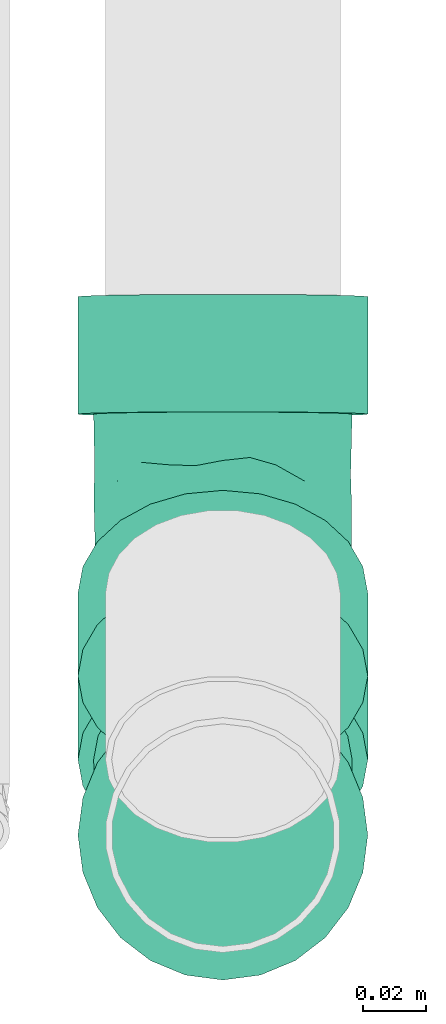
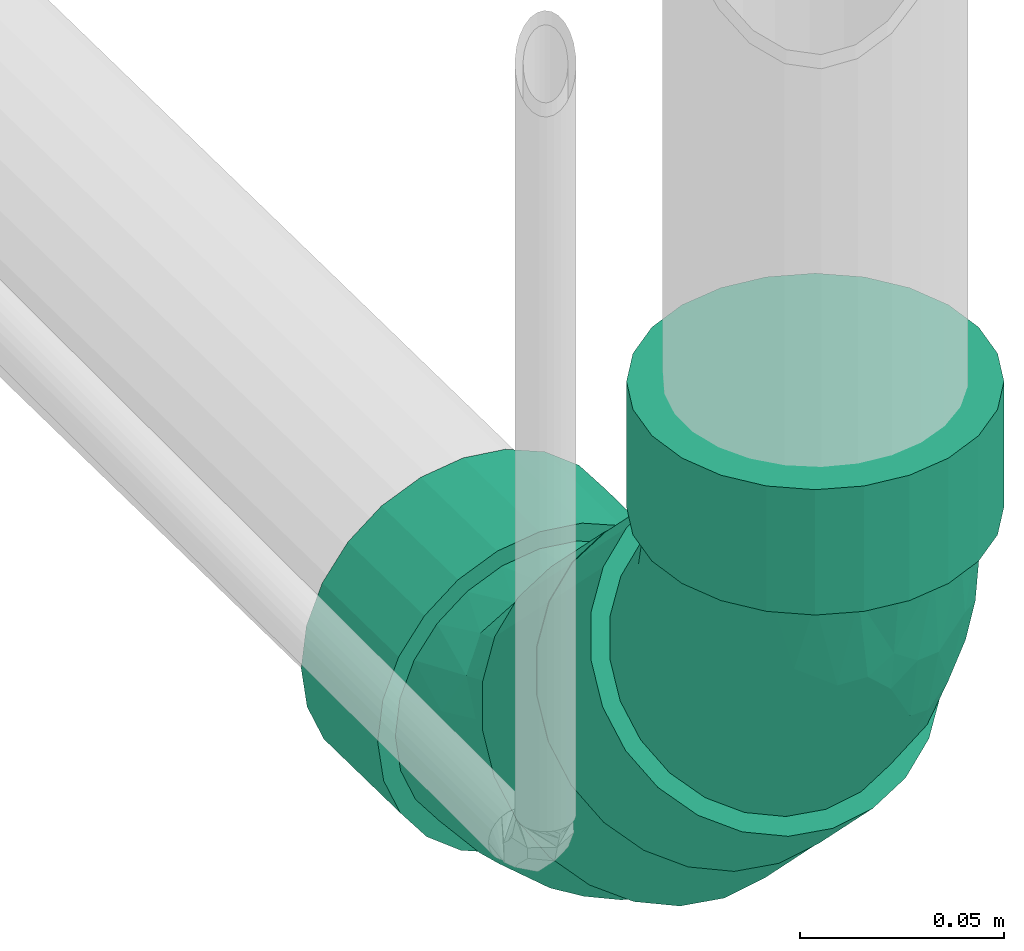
# One storey, part 11 of 18: 2 flow fittings.
"""IFC2X3 building model written with IfcOpenShell, lengths in millimetres."""

from ifc_helpers import new_model, entity, si_unit, converted_unit, derived_unit, direction, frame, origin_with_axes, place, context, subcontext, project, spatial, open_shell, surface_model, source, transform, mapped, type_object, element, save


model = new_model("IFC2X3")

# Units and contexts
model_context = context("Model", 3, precision=0.01, world=frame((0.0, 4.29681676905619e-09, 0.0)), true_north=direction((4.01073788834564e-13, 1.0)))
plan_context = context("Plan", 3, precision=0.01, world=frame((0.0, 4.29681676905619e-09, 0.0)), true_north=direction((4.01073788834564e-13, 1.0)))
body_context = subcontext(model_context, "Body", "Model", "MODEL_VIEW")
ifc_project = project(units=[converted_unit("PLANEANGLEUNIT", "DEGREE", entity("IfcPositiveLengthMeasure", 0.0174532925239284), si_unit("PLANEANGLEUNIT", "RADIAN"), dimensions=[0, 0, 0, 0, 0, 0, 0]), si_unit("AREAUNIT", "SQUARE_METRE"), si_unit("LENGTHUNIT", "METRE", prefix="MILLI"), si_unit("MASSUNIT", "GRAM", prefix="KILO"), si_unit("POWERUNIT", "WATT"), si_unit("PRESSUREUNIT", "PASCAL", prefix="KILO"), si_unit("FORCEUNIT", "NEWTON", prefix="KILO"), si_unit("ELECTRICVOLTAGEUNIT", "VOLT"), si_unit("ELECTRICCURRENTUNIT", "AMPERE"), si_unit("THERMODYNAMICTEMPERATUREUNIT", "DEGREE_CELSIUS"), si_unit("TIMEUNIT", "SECOND"), si_unit("VOLUMEUNIT", "CUBIC_METRE"), derived_unit("LINEARVELOCITYUNIT", [(si_unit("LENGTHUNIT", "METRE"), 1), (si_unit("TIMEUNIT", "SECOND"), -1)]), derived_unit("VOLUMETRICFLOWRATEUNIT", [(si_unit("VOLUMEUNIT", "CUBIC_METRE"), 1), (si_unit("TIMEUNIT", "SECOND"), -1)]), derived_unit("THERMALTRANSMITTANCEUNIT", [(si_unit("POWERUNIT", "WATT"), 1), (si_unit("THERMODYNAMICTEMPERATUREUNIT", "KELVIN"), -1), (si_unit("AREAUNIT", "SQUARE_METRE"), -1)]), derived_unit("SOUNDPRESSUREUNIT", [(si_unit("PRESSUREUNIT", "PASCAL"), 1)])], contexts=[model_context, plan_context])

# Site, building, storey
site_placement = place(None, frame((0.0, -4.29681676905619e-09, 0.0), z_axis=(0.0, 0.0, 1.0), x_axis=(1.0, 0.0, 0.0)))
site = spatial("IfcSite", under=ifc_project, at=site_placement, Name="ENGM", CompositionType="ELEMENT")
building_placement = place(site_placement, frame((0.0, 4.29681676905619e-09, 0.0), z_axis=(0.0, 0.0, 1.0), x_axis=(1.0, 0.0, 0.0)))
building = spatial("IfcBuilding", under=site, at=building_placement, Name="TI", CompositionType="ELEMENT")
storey_placement = place(building_placement, frame((0.0, 0.0, 204000.0), z_axis=(0.0, 0.0, 1.0), x_axis=(1.0, 0.0, 0.0)))
storey = spatial("IfcBuildingStorey", under=building, at=storey_placement, Name="Nivå D", CompositionType="ELEMENT", Elevation=204000.0)

# Flow fittings
pipe_fitting_type = type_object("IfcPipeFittingType", Name="magi_sewer_bend_001", PredefinedType="BEND")
shared_shape_1 = source(origin_with_axes(), body_context, "Body", "SurfaceModel", [
    surface_model("IfcShellBasedSurfaceModel", [(-70.97652, -44.67407, -11.97038), (-70.97652, -11.97038, -44.67407), (-70.97652, -23.125, -40.05367), (-70.97652, -32.70369, -32.70369), (-70.97652, 0.0, -46.25), (-70.97652, -40.05367, -23.125), (-70.97652, -46.25, 0.0), (-70.97652, 11.97038, -44.67407), (-70.97652, 32.70369, -32.70369), (-70.97652, 23.125, -40.05367), (-70.97652, 44.67407, -11.97038), (-70.97652, 40.05367, -23.125), (-70.97652, -32.70369, 32.70369), (-70.97652, -44.67407, 11.97038), (-70.97652, -40.05367, 23.125), (-70.97652, 40.05367, 23.125), (-70.97652, -23.125, 40.05367), (-70.97652, -11.97038, 44.67407), (-70.97652, 0.0, 46.25), (-70.97652, 11.97038, 44.67407), (-70.97652, 44.67407, 11.97038), (-70.97652, 46.25, 0.0), (-70.97652, 23.125, 40.05367), (-70.97652, 32.70369, 32.70369), (-33.47652, 0.0, 46.25), (-33.47652, -11.97038, 44.67407), (-33.47652, -23.125, 40.05367), (-33.47652, -32.70369, 32.70369), (-33.47652, -40.05367, 23.125), (-33.47652, -44.67407, 11.97038), (-33.47652, 40.05367, 23.125), (-33.47652, -44.67407, -11.97038), (-33.47652, 23.125, 40.05367), (-33.47652, 32.70369, 32.70369), (-33.47652, 11.97038, 44.67407), (-33.47652, 44.67407, 11.97038), (-33.47652, 44.67407, -11.97038), (-33.47652, 46.25, 0.0), (-33.47652, -32.70369, -32.70369), (-33.47652, -40.05367, -23.125), (-33.47652, -23.125, -40.05367), (-33.47652, -11.97038, -44.67407), (-33.47652, 11.97038, -44.67407), (-33.47652, 32.70369, -32.70369), (-33.47652, 40.05367, -23.125), (-33.47652, 23.125, -40.05367), (-33.47652, 0.0, -46.25), (-33.47652, -46.25, 0.0), (42.56659, 58.04344, 44.67407), (19.77807, 81.5001, 11.97038), (22.99765, 78.18613, 23.125), (34.79385, 66.04407, 40.05367), (28.11925, 72.91437, 32.70369), (19.77807, 81.5001, -11.97038), (67.02168, 32.87135, -40.05367), (28.11925, 72.91437, -32.70369), (22.99765, 78.18613, -23.125), (18.67994, 82.63043, 0.0), (42.56659, 58.04344, -44.67407), (34.79385, 66.04407, -40.05367), (67.02168, 32.87135, 40.05367), (50.90777, 49.45771, 46.25), (73.69628, 26.00105, 32.70369), (83.1356, 16.28499, 0.0), (78.81789, 20.72929, 23.125), (82.03746, 17.41532, 11.97038), (59.24894, 40.87198, -44.67407), (50.90777, 49.45771, -46.25), (78.81789, 20.72929, -23.125), (73.69628, 26.00105, -32.70369), (82.03746, 17.41532, -11.97038), (59.24894, 40.87198, 44.67407), (56.2388, -9.84568, 0.0), (55.14066, -8.71535, 11.97038), (51.92109, -5.40138, 23.125), (46.79948, -0.12962, 32.70369), (40.12488, 6.74068, 40.05367), (32.35214, 14.74131, 44.67407), (40.12488, 6.74068, -40.05367), (15.66979, 31.91277, 44.67407), (51.92109, -5.40138, -23.125), (46.79948, -0.12962, -32.70369), (55.14066, -8.71535, -11.97038), (32.35214, 14.74131, -44.67407), (15.66979, 31.91277, -44.67407), (24.01097, 23.32704, -46.25), (-7.11873, 55.36943, -11.97038), (-3.89915, 52.05546, 23.125), (7.89705, 39.9134, 40.05367), (-7.11873, 55.36943, 11.97038), (1.22245, 46.7837, 32.70369), (1.22245, 46.7837, -32.70369), (7.89705, 39.9134, -40.05367), (-3.89915, 52.05546, -23.125), (-8.21687, 56.49976, 0.0), (24.01097, 23.32704, 46.25), (-33.47652, 0.0, -41.25), (-33.47652, -35.72355, 20.625), (-33.47652, 10.67629, -39.84444), (-33.47652, 20.625, -35.72355), (-33.47652, 35.72355, -20.625), (-33.47652, 29.16816, -29.16816), (-33.47652, -41.25, 0.0), (-33.47652, -29.16816, -29.16816), (-33.47652, -20.625, -35.72355), (-33.47652, -10.67629, -39.84444), (-33.47652, -39.84444, -10.67629), (-33.47652, -35.72355, -20.625), (-33.47652, 39.84444, -10.67629), (-33.47652, 35.72355, 20.625), (-33.47652, 39.84444, 10.67629), (-33.47652, 41.25, 0.0), (-33.47652, -10.67629, 39.84444), (-33.47652, 10.67629, 39.84444), (-33.47652, 20.625, 35.72355), (-33.47652, 29.16816, 29.16816), (-33.47652, 0.0, 41.25), (-33.47652, -29.16816, 29.16816), (-33.47652, -39.84444, 10.67629), (-33.47652, -20.625, 35.72355), (16.57154, 30.98458, -39.84444), (52.75471, -6.25944, 0.0), (24.01097, 23.32704, -41.25), (3.68607, 44.24784, -29.16816), (9.6391, 38.12028, -35.72355), (-0.88184, 48.94968, -20.625), (-3.75336, 51.90538, -10.67629), (38.38284, 8.5338, -35.72355), (44.33586, 2.40624, -29.16816), (31.45039, 15.66949, -39.84444), (48.90377, -2.29561, -20.625), (51.77529, -5.25131, -10.67629), (-4.73278, 52.91352, 0.0), (-3.75336, 51.90538, 10.67629), (-0.88184, 48.94968, 20.625), (3.68607, 44.24784, 29.16816), (9.6391, 38.12028, 35.72355), (16.57154, 30.98458, 39.84444), (31.45039, 15.66949, 39.84444), (24.01097, 23.32704, 41.25), (48.90377, -2.29561, 20.625), (51.77529, -5.25131, 10.67629), (44.33586, 2.40624, 29.16816), (38.38284, 8.5338, 35.72355), (-12.67921, -31.54394, 24.1733), (-7.0331, -35.74545, 14.36976), (10.40191, -25.63462, 23.06647), (-13.07778, -38.61441, 0.0), (-2.02365, -37.18617, 0.0), (-8.38428, -38.05185, 7.09314), (-8.70646, -23.34574, 31.8565), (22.51242, -10.67787, 31.8565), (31.07452, -13.78973, 24.1733), (-16.04768, -15.1595, 37.71721), (4.23261, -10.43091, 37.21653), (7.31276, 19.1585, 40.62361), (-11.81224, -3.98526, 40.70923), (-3.78212, 9.32072, 41.09906), (-20.29594, 5.69547, 40.99577), (-11.43115, 28.17108, 33.64295), (-17.52446, 34.59974, 26.01363), (22.07358, 0.30919, 37.71721), (-15.26452, 17.16255, 38.55255), (15.48672, -27.45323, 16.3707), (12.67014, -31.22446, 9.11439), (-16.60419, 40.91961, 16.90521), (32.52882, -21.4503, 7.09314), (36.28722, -18.58327, 0.0), (-16.32107, 43.9817, 8.64456), (29.95255, -20.73756, 14.36976), (11.2493, 5.37256, 40.70923), (1.46806, 24.57827, 38.48293), (-17.96652, 44.27694, 0.0), (6.82264, -16.81381, 33.05342), (12.6699, -31.22388, 0.0), (27.36345, -25.26159, 0.0), (-11.81224, -3.98526, -40.70923), (-8.38428, -38.05185, -7.09314), (12.67014, -31.22446, -9.11439), (11.2493, 5.37256, -40.70923), (-18.59505, 8.64573, -40.62361), (-11.54034, 37.02795, -26.01363), (22.51242, -10.67787, -31.8565), (-16.6042, 40.91961, -16.90521), (29.95255, -20.73756, -14.36976), (-18.94098, 42.9186, -8.64456), (-1.01073, 22.9464, -38.55256), (-18.17954, 16.60575, -38.48293), (-7.0331, -35.74545, -14.36976), (-11.43115, 28.17108, -33.64295), (-12.67921, -31.54394, -24.1733), (10.40191, -25.63462, -23.06647), (8.02208, -30.4822, -16.3707), (-8.70646, -23.34574, -31.8565), (6.82264, -16.81381, -33.05342), (-16.04768, -15.1595, -37.71721), (22.07358, 0.30919, -37.71721), (4.23261, -10.43091, -37.21653), (32.52882, -21.4503, -7.09314), (10.58852, 18.22764, -40.99577), (31.07452, -13.78973, -24.1733), (-3.78212, 9.32072, -41.09906)], [open_shell([[[0, 1, 2]], [[0, 2, 3]], [[1, 0, 4]], [[0, 3, 5]], [[4, 0, 6]], [[7, 8, 9]], [[8, 7, 4]], [[8, 10, 11]], [[10, 8, 4]], [[4, 6, 10]], [[6, 12, 10]], [[13, 14, 12]], [[10, 12, 15]], [[16, 17, 18]], [[16, 18, 12]], [[19, 12, 18]], [[10, 20, 21]], [[15, 20, 10]], [[15, 22, 23]], [[22, 15, 19]], [[12, 19, 15]], [[6, 13, 12]], [[24, 25, 26]], [[24, 26, 27]], [[27, 28, 29]], [[24, 27, 30]], [[27, 31, 30]], [[32, 30, 33]], [[30, 32, 34]], [[35, 36, 37]], [[30, 34, 24]], [[35, 30, 36]], [[27, 29, 31]], [[36, 30, 31]], [[38, 31, 39]], [[40, 41, 31]], [[40, 31, 38]], [[42, 31, 41]], [[36, 43, 44]], [[36, 31, 43]], [[43, 42, 45]], [[31, 42, 43]], [[41, 46, 42]], [[31, 29, 47]], [[36, 10, 37]], [[44, 11, 36]], [[9, 43, 45]], [[44, 43, 8]], [[7, 45, 42]], [[36, 11, 10]], [[10, 21, 37]], [[7, 9, 45]], [[8, 43, 9]], [[8, 11, 44]], [[4, 7, 42]], [[42, 46, 4]], [[46, 41, 1]], [[5, 39, 31]], [[39, 3, 38]], [[0, 31, 47]], [[1, 40, 2]], [[40, 1, 41]], [[40, 38, 2]], [[38, 3, 2]], [[39, 5, 3]], [[0, 5, 31]], [[47, 6, 0]], [[46, 1, 4]], [[29, 13, 47]], [[28, 14, 29]], [[16, 27, 26]], [[28, 27, 12]], [[17, 26, 25]], [[29, 14, 13]], [[13, 6, 47]], [[17, 16, 26]], [[12, 27, 16]], [[12, 14, 28]], [[18, 17, 25]], [[25, 24, 18]], [[33, 22, 32]], [[35, 15, 30]], [[33, 30, 23]], [[20, 35, 37]], [[32, 19, 34]], [[32, 22, 19]], [[19, 18, 34]], [[33, 23, 22]], [[30, 15, 23]], [[20, 15, 35]], [[37, 21, 20]], [[34, 18, 24]], [[48, 49, 50]], [[51, 50, 52]], [[49, 48, 53]], [[48, 50, 51]], [[54, 53, 48]], [[53, 55, 56]], [[53, 57, 49]], [[55, 58, 59]], [[58, 55, 53]], [[53, 54, 58]], [[60, 48, 61]], [[60, 62, 48]], [[62, 63, 48]], [[64, 65, 63]], [[64, 63, 62]], [[63, 54, 48]], [[58, 66, 67]], [[54, 66, 58]], [[54, 68, 69]], [[54, 63, 68]], [[70, 68, 63]], [[60, 61, 71]], [[72, 73, 74]], [[72, 74, 75]], [[75, 76, 77]], [[72, 75, 78]], [[75, 79, 78]], [[80, 78, 81]], [[78, 80, 82]], [[83, 84, 85]], [[78, 82, 72]], [[83, 78, 84]], [[75, 77, 79]], [[78, 79, 86]], [[87, 79, 88]], [[87, 89, 79]], [[87, 88, 90]], [[86, 79, 89]], [[84, 91, 92]], [[91, 84, 86]], [[91, 86, 93]], [[78, 86, 84]], [[89, 94, 86]], [[79, 77, 95]], [[84, 58, 85]], [[92, 59, 84]], [[56, 91, 93]], [[92, 91, 55]], [[53, 93, 86]], [[84, 59, 58]], [[58, 67, 85]], [[53, 56, 93]], [[55, 91, 56]], [[55, 59, 92]], [[57, 53, 86]], [[86, 94, 57]], [[94, 89, 49]], [[51, 88, 79]], [[88, 52, 90]], [[48, 79, 95]], [[49, 87, 50]], [[87, 49, 89]], [[87, 90, 50]], [[90, 52, 50]], [[88, 51, 52]], [[48, 51, 79]], [[95, 61, 48]], [[94, 49, 57]], [[77, 71, 95]], [[76, 60, 77]], [[64, 75, 74]], [[76, 75, 62]], [[65, 74, 73]], [[77, 60, 71]], [[71, 61, 95]], [[65, 64, 74]], [[62, 75, 64]], [[62, 60, 76]], [[63, 65, 73]], [[73, 72, 63]], [[81, 68, 80]], [[83, 54, 78]], [[81, 78, 69]], [[66, 83, 85]], [[80, 70, 82]], [[80, 68, 70]], [[70, 63, 82]], [[81, 69, 68]], [[78, 54, 69]], [[66, 54, 83]], [[85, 67, 66]], [[82, 63, 72]], [[96, 97, 98]], [[99, 98, 100]], [[100, 98, 97]], [[101, 99, 100]], [[97, 96, 102]], [[103, 102, 104]], [[96, 105, 104]], [[106, 102, 107]], [[103, 107, 102]], [[104, 102, 96]], [[108, 100, 97]], [[109, 110, 111]], [[109, 111, 112]], [[113, 114, 115]], [[109, 113, 115]], [[113, 109, 116]], [[97, 117, 111]], [[97, 102, 118]], [[119, 112, 117]], [[112, 111, 117]], [[116, 109, 112]], [[111, 108, 97]], [[120, 121, 122]], [[123, 120, 124]], [[123, 125, 126]], [[123, 126, 120]], [[121, 120, 126]], [[127, 121, 128]], [[127, 129, 122]], [[130, 121, 131]], [[121, 130, 128]], [[122, 121, 127]], [[126, 132, 121]], [[132, 133, 134]], [[132, 134, 135]], [[135, 136, 137]], [[138, 121, 135]], [[139, 135, 137]], [[140, 141, 121]], [[142, 140, 121]], [[142, 138, 143]], [[138, 142, 121]], [[135, 139, 138]], [[132, 135, 121]], [[144, 145, 146]], [[147, 148, 149]], [[119, 117, 150]], [[151, 152, 142]], [[153, 150, 154]], [[117, 144, 150]], [[137, 155, 139]], [[112, 119, 153]], [[156, 157, 158]], [[116, 112, 156]], [[115, 159, 160]], [[143, 138, 161]], [[158, 113, 116]], [[114, 162, 159]], [[118, 147, 149]], [[136, 135, 159]], [[163, 145, 164]], [[159, 115, 114]], [[144, 117, 97]], [[109, 160, 165]], [[110, 109, 165]], [[141, 166, 167]], [[168, 111, 110]], [[169, 163, 164]], [[145, 149, 164]], [[114, 113, 162]], [[139, 155, 170]], [[142, 143, 151]], [[134, 133, 165]], [[170, 138, 139]], [[146, 150, 144]], [[169, 140, 152]], [[171, 155, 137]], [[151, 143, 161]], [[145, 144, 97]], [[166, 141, 169]], [[151, 146, 152]], [[158, 162, 113]], [[142, 152, 140]], [[110, 165, 168]], [[97, 118, 145]], [[172, 168, 132]], [[150, 173, 154]], [[133, 168, 165]], [[154, 170, 156]], [[134, 165, 160]], [[154, 161, 170]], [[134, 160, 135]], [[157, 156, 170]], [[137, 136, 171]], [[171, 159, 162]], [[153, 156, 112]], [[109, 115, 160]], [[169, 141, 140]], [[152, 146, 163]], [[173, 146, 151]], [[135, 160, 159]], [[150, 153, 119]], [[156, 153, 154]], [[170, 161, 138]], [[151, 161, 154]], [[159, 171, 136]], [[157, 171, 162]], [[118, 102, 147]], [[164, 148, 174]], [[118, 149, 145]], [[148, 164, 149]], [[166, 164, 175]], [[167, 166, 175]], [[167, 121, 141]], [[164, 166, 169]], [[171, 157, 155]], [[155, 157, 170]], [[156, 158, 116]], [[162, 158, 157]], [[146, 173, 150]], [[151, 154, 173]], [[132, 168, 133]], [[168, 172, 111]], [[152, 163, 169]], [[145, 163, 146]], [[175, 164, 174]], [[105, 96, 176]], [[148, 177, 178]], [[122, 129, 179]], [[180, 96, 98]], [[100, 181, 101]], [[127, 128, 182]], [[183, 181, 100]], [[130, 131, 184]], [[108, 185, 183]], [[124, 120, 186]], [[106, 177, 147]], [[99, 187, 98]], [[177, 106, 188]], [[123, 189, 181]], [[190, 191, 192]], [[190, 188, 107]], [[103, 104, 193]], [[194, 191, 193]], [[106, 107, 188]], [[190, 103, 193]], [[195, 104, 105]], [[196, 179, 129]], [[126, 125, 183]], [[197, 195, 176]], [[111, 172, 185]], [[193, 191, 190]], [[132, 126, 185]], [[197, 176, 179]], [[123, 124, 189]], [[183, 100, 108]], [[125, 181, 183]], [[195, 193, 104]], [[186, 189, 124]], [[180, 176, 96]], [[189, 186, 187]], [[101, 189, 99]], [[131, 167, 198]], [[199, 120, 122]], [[196, 129, 127]], [[192, 184, 178]], [[182, 128, 200]], [[197, 196, 182]], [[200, 128, 130]], [[201, 199, 179]], [[191, 200, 184]], [[201, 179, 176]], [[198, 167, 175]], [[199, 186, 120]], [[187, 180, 98]], [[177, 188, 178]], [[103, 190, 107]], [[182, 194, 197]], [[184, 200, 130]], [[126, 183, 185]], [[191, 182, 200]], [[125, 123, 181]], [[101, 181, 189]], [[176, 195, 105]], [[193, 195, 197]], [[182, 196, 127]], [[179, 196, 197]], [[189, 187, 99]], [[201, 187, 186]], [[147, 177, 148]], [[147, 102, 106]], [[192, 178, 188]], [[198, 178, 184]], [[178, 175, 174]], [[131, 121, 167]], [[178, 198, 175]], [[131, 198, 184]], [[187, 201, 180]], [[180, 201, 176]], [[179, 199, 122]], [[186, 199, 201]], [[191, 194, 182]], [[193, 197, 194]], [[111, 185, 108]], [[185, 172, 132]], [[190, 192, 188]], [[184, 192, 191]], [[148, 178, 174]]])]),
])
flow_fitting_1_placement = place(storey_placement, frame((593020.37788, 570381.72917, 6286.20220999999), z_axis=(-1.0, 0.0, 0.0), x_axis=(0.0, -0.999861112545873, 0.0166660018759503)))
element("IfcFlowFitting", 1, at=flow_fitting_1_placement, inside=storey, type_object=pipe_fitting_type, Name="magi_sewer_bend_001", context=body_context, shape_type="MappedRepresentation", body=[
    mapped(shared_shape_1, transform((0.0, 0.0, 0.0), scale=1.0)),
])
shared_shape_2 = source(origin_with_axes(), body_context, "Body", "SurfaceModel", [
    surface_model("IfcShellBasedSurfaceModel", [(-71.6253, -44.67407, -11.97038), (-71.6253, -11.97038, -44.67407), (-71.6253, -23.125, -40.05367), (-71.6253, -32.70369, -32.70369), (-71.6253, 0.0, -46.25), (-71.6253, -40.05367, -23.125), (-71.6253, -46.25, 0.0), (-71.6253, 11.97038, -44.67407), (-71.6253, 32.70369, -32.70369), (-71.6253, 23.125, -40.05367), (-71.6253, 44.67407, -11.97038), (-71.6253, 40.05367, -23.125), (-71.6253, -32.70369, 32.70369), (-71.6253, -44.67407, 11.97038), (-71.6253, -40.05367, 23.125), (-71.6253, 40.05367, 23.125), (-71.6253, -23.125, 40.05367), (-71.6253, -11.97038, 44.67407), (-71.6253, 0.0, 46.25), (-71.6253, 11.97038, 44.67407), (-71.6253, 44.67407, 11.97038), (-71.6253, 46.25, 0.0), (-71.6253, 23.125, 40.05367), (-71.6253, 32.70369, 32.70369), (-34.12529, 0.0, 46.25), (-34.12529, -11.97038, 44.67407), (-34.12529, -23.125, 40.05367), (-34.12529, -32.70369, 32.70369), (-34.12529, -40.05367, 23.125), (-34.12529, -44.67407, 11.97038), (-34.12529, 40.05367, 23.125), (-34.12529, -44.67407, -11.97038), (-34.12529, 23.125, 40.05367), (-34.12529, 32.70369, 32.70369), (-34.12529, 11.97038, 44.67407), (-34.12529, 44.67407, 11.97038), (-34.12529, 44.67407, -11.97038), (-34.12529, 46.25, 0.0), (-34.12529, -32.70369, -32.70369), (-34.12529, -40.05367, -23.125), (-34.12529, -23.125, -40.05367), (-34.12529, -11.97038, -44.67407), (-34.12529, 11.97038, -44.67407), (-34.12529, 32.70369, -32.70369), (-34.12529, 40.05367, -23.125), (-34.12529, 23.125, -40.05367), (-34.12529, 0.0, -46.25), (-34.12529, -46.25, 0.0), (19.13793, 82.21737, 11.97038), (22.40184, 78.94705, 23.125), (27.59397, 73.74474, 32.70369), (42.24027, 59.06973, 44.67407), (27.59397, 73.74474, -32.70369), (34.36049, 66.96496, 40.05367), (50.69631, 50.5971, -46.25), (42.24027, 59.06973, -44.67407), (19.13793, 82.21737, -11.97038), (22.40184, 78.94705, -23.125), (18.02467, 83.3328, 0.0), (34.36049, 66.96496, -40.05367), (50.69631, 50.5971, 46.25), (59.15236, 42.12448, 44.67407), (67.03213, 34.22925, 40.05367), (73.79865, 27.44947, 32.70369), (78.99078, 22.24715, 23.125), (82.2547, 18.97684, 11.97038), (83.36796, 17.8614, 0.0), (67.03213, 34.22925, -40.05367), (59.15236, 42.12448, -44.67407), (78.99078, 22.24715, -23.125), (73.79865, 27.44947, -32.70369), (82.2547, 18.97684, -11.97038), (52.44832, -4.24337, -23.125), (56.82549, -8.62912, 0.0), (55.71223, -7.51368, 11.97038), (52.44832, -4.24337, 23.125), (47.25619, 0.95895, 32.70369), (40.48967, 7.73873, 40.05367), (32.60989, 15.63396, 44.67407), (40.48967, 7.73873, -40.05367), (15.69781, 32.57921, 44.67407), (47.25619, 0.95895, -32.70369), (55.71223, -7.51368, -11.97038), (32.60989, 15.63396, -44.67407), (15.69781, 32.57921, -44.67407), (24.15385, 24.10658, -46.25), (1.05151, 47.25422, 32.70369), (7.81803, 40.47443, 40.05367), (-4.14062, 52.45653, 23.125), (-7.40453, 55.72684, 11.97038), (1.05151, 47.25422, -32.70369), (7.81803, 40.47443, -40.05367), (-4.14062, 52.45653, -23.125), (-8.51779, 56.84229, 0.0), (-7.40453, 55.72684, -11.97038), (24.15385, 24.10658, 46.25), (-34.12529, 10.67629, -39.84444), (-34.12529, 0.0, -41.25), (-34.12529, 35.72355, -20.625), (-34.12529, 20.625, -35.72355), (-34.12529, -10.67629, -39.84444), (-34.12529, 29.16816, -29.16816), (-34.12529, 39.84444, -10.67629), (-34.12529, -29.16816, -29.16816), (-34.12529, -35.72355, -20.625), (-34.12529, -20.625, -35.72355), (-34.12529, -39.84444, -10.67629), (-34.12529, -41.25, 0.0), (-34.12529, -39.84444, 10.67629), (-34.12529, 41.25, 0.0), (-34.12529, 35.72355, 20.625), (-34.12529, 39.84444, 10.67629), (-34.12529, 10.67629, 39.84444), (-34.12529, 20.625, 35.72355), (-34.12529, 29.16816, 29.16816), (-34.12529, -35.72355, 20.625), (-34.12529, -29.16816, 29.16816), (-34.12529, -10.67629, 39.84444), (-34.12529, -20.625, 35.72355), (-34.12529, 0.0, 41.25), (16.61197, 31.66325, -39.84444), (49.38946, -1.17851, -20.625), (24.15385, 24.10658, -41.25), (-1.08176, 49.39168, -20.625), (9.58406, 38.70494, -35.72355), (3.54906, 44.75177, -29.16816), (-1.08176, 49.39168, 20.625), (38.72364, 9.50823, -35.72355), (44.75864, 3.46139, -29.16816), (31.69573, 16.54992, -39.84444), (52.30051, -4.09527, -10.67629), (52.30051, -4.09527, 10.67629), (53.29342, -5.09013, 0.0), (-3.99282, 52.30844, -10.67629), (-4.98572, 53.30329, 0.0), (-3.99282, 52.30844, 10.67629), (3.54906, 44.75177, 29.16816), (9.58406, 38.70494, 35.72355), (16.61197, 31.66325, 39.84444), (44.75864, 3.46139, 29.16816), (49.38946, -1.17851, 20.625), (38.72364, 9.50823, 35.72355), (31.69573, 16.54992, 39.84444), (24.15385, 24.10658, 41.25), (-13.27663, -31.54814, 24.15481), (10.49923, -25.38253, 22.99279), (-9.09748, -23.31577, 31.83192), (-13.73451, -38.56889, 0.0), (-2.13547, -37.04377, 0.0), (-8.77594, -38.00621, 7.04724), (22.90977, -10.07629, 31.83192), (31.68323, -12.95095, 24.15481), (-16.32451, -15.12833, 37.70153), (4.2354, -10.23935, 37.1831), (1.24096, 24.78353, 38.49977), (7.44754, 19.50072, 40.64825), (-12.27745, -3.9726, 40.7039), (-3.91372, 9.46166, 41.10464), (-20.64275, 5.71465, 40.99941), (-11.69762, 28.27971, 33.67442), (-18.14597, 34.59454, 26.0303), (22.24133, 0.82404, 37.70153), (-15.8099, 17.16504, 38.56223), (15.89038, -27.02867, 16.26477), (-7.37162, -35.69147, 14.32812), (12.79798, -30.9399, 8.97598), (-16.96663, 41.01787, 16.94441), (33.05972, -20.70131, 7.04724), (36.96687, -17.59677, 0.0), (-16.50847, 44.18556, 8.66557), (30.43058, -20.05498, 14.32812), (11.49627, 5.86116, 40.7039), (-18.35827, 44.38224, 0.0), (6.91693, -16.72209, 32.90554), (12.77212, -30.8774, 0.0), (27.67971, -24.71102, 0.0), (-12.27745, -3.9726, -40.7039), (-8.77594, -38.00621, -7.04724), (12.79798, -30.9399, -8.97598), (11.49627, 5.86116, -40.7039), (-18.38578, 16.66512, -38.49977), (-19.04694, 8.54154, -40.64825), (-11.59437, 37.30454, -26.0303), (22.90977, -10.07629, -31.83192), (-16.96663, 41.01787, -16.9444), (30.43058, -20.05498, -14.32812), (-19.52861, 42.93631, -8.66557), (-0.93539, 23.31774, -38.56223), (-7.37162, -35.69147, -14.32812), (-11.69762, 28.27971, -33.67442), (-13.27663, -31.54814, -24.15481), (-9.09748, -23.31577, -31.83192), (6.91693, -16.72209, -32.90554), (10.49923, -25.38253, -22.99279), (-16.32451, -15.12833, -37.70153), (22.24133, 0.82404, -37.70153), (4.2354, -10.23935, -37.1831), (33.05972, -20.70131, -7.04724), (10.57401, 18.62715, -40.99941), (7.84623, -30.35605, -16.26477), (31.68323, -12.95095, -24.15481), (-3.91372, 9.46166, -41.10464)], [open_shell([[[0, 1, 2]], [[0, 2, 3]], [[1, 0, 4]], [[0, 3, 5]], [[4, 0, 6]], [[7, 8, 9]], [[8, 7, 4]], [[8, 10, 11]], [[10, 8, 4]], [[4, 6, 10]], [[6, 12, 10]], [[13, 14, 12]], [[10, 12, 15]], [[16, 17, 18]], [[16, 18, 12]], [[19, 12, 18]], [[10, 20, 21]], [[15, 20, 10]], [[15, 22, 23]], [[22, 15, 19]], [[12, 19, 15]], [[6, 13, 12]], [[24, 25, 26]], [[24, 26, 27]], [[27, 28, 29]], [[24, 27, 30]], [[27, 31, 30]], [[32, 30, 33]], [[30, 32, 34]], [[35, 36, 37]], [[30, 34, 24]], [[35, 30, 36]], [[27, 29, 31]], [[36, 30, 31]], [[38, 31, 39]], [[40, 41, 31]], [[40, 31, 38]], [[42, 31, 41]], [[36, 43, 44]], [[36, 31, 43]], [[43, 42, 45]], [[31, 42, 43]], [[41, 46, 42]], [[31, 29, 47]], [[36, 10, 37]], [[44, 11, 36]], [[9, 43, 45]], [[44, 43, 8]], [[7, 45, 42]], [[36, 11, 10]], [[10, 21, 37]], [[7, 9, 45]], [[8, 43, 9]], [[8, 11, 44]], [[4, 7, 42]], [[42, 46, 4]], [[46, 41, 1]], [[5, 39, 31]], [[39, 3, 38]], [[0, 31, 47]], [[1, 40, 2]], [[40, 1, 41]], [[40, 38, 2]], [[38, 3, 2]], [[39, 5, 3]], [[0, 5, 31]], [[47, 6, 0]], [[46, 1, 4]], [[29, 13, 47]], [[28, 14, 29]], [[16, 27, 26]], [[28, 27, 12]], [[17, 26, 25]], [[29, 14, 13]], [[13, 6, 47]], [[17, 16, 26]], [[12, 27, 16]], [[12, 14, 28]], [[18, 17, 25]], [[25, 24, 18]], [[33, 22, 32]], [[35, 15, 30]], [[33, 30, 23]], [[20, 35, 37]], [[32, 19, 34]], [[32, 22, 19]], [[19, 18, 34]], [[33, 23, 22]], [[30, 15, 23]], [[20, 15, 35]], [[37, 21, 20]], [[34, 18, 24]], [[48, 49, 50]], [[48, 50, 51]], [[48, 51, 52]], [[51, 50, 53]], [[54, 55, 51]], [[56, 52, 57]], [[56, 58, 48]], [[52, 55, 59]], [[52, 56, 48]], [[55, 52, 51]], [[51, 60, 54]], [[61, 62, 63]], [[61, 63, 64]], [[54, 64, 65]], [[64, 54, 60]], [[66, 67, 65]], [[54, 67, 68]], [[54, 65, 67]], [[67, 69, 70]], [[67, 66, 69]], [[71, 69, 66]], [[64, 60, 61]], [[72, 73, 74]], [[75, 72, 74]], [[76, 77, 78]], [[79, 75, 80]], [[80, 75, 76]], [[72, 79, 81]], [[72, 82, 73]], [[83, 84, 85]], [[79, 72, 75]], [[79, 84, 83]], [[76, 78, 80]], [[84, 79, 80]], [[86, 80, 87]], [[86, 88, 89]], [[86, 89, 80]], [[90, 80, 89]], [[84, 90, 91]], [[84, 80, 90]], [[92, 93, 94]], [[93, 92, 90]], [[89, 93, 90]], [[80, 78, 95]], [[84, 55, 85]], [[91, 59, 84]], [[57, 90, 92]], [[91, 90, 52]], [[56, 92, 94]], [[84, 59, 55]], [[55, 54, 85]], [[56, 57, 92]], [[52, 90, 57]], [[52, 59, 91]], [[58, 56, 94]], [[94, 93, 58]], [[93, 89, 48]], [[53, 87, 80]], [[87, 50, 86]], [[51, 80, 95]], [[48, 88, 49]], [[88, 48, 89]], [[88, 86, 49]], [[86, 50, 49]], [[87, 53, 50]], [[51, 53, 80]], [[95, 60, 51]], [[93, 48, 58]], [[78, 61, 95]], [[77, 62, 78]], [[64, 76, 75]], [[77, 76, 63]], [[65, 75, 74]], [[78, 62, 61]], [[61, 60, 95]], [[65, 64, 75]], [[63, 76, 64]], [[63, 62, 77]], [[66, 65, 74]], [[74, 73, 66]], [[81, 69, 72]], [[83, 67, 79]], [[81, 79, 70]], [[68, 83, 85]], [[72, 71, 82]], [[72, 69, 71]], [[71, 66, 82]], [[81, 70, 69]], [[79, 67, 70]], [[68, 67, 83]], [[85, 54, 68]], [[82, 66, 73]], [[96, 97, 98]], [[99, 96, 98]], [[100, 98, 97]], [[101, 99, 98]], [[102, 98, 100]], [[103, 104, 105]], [[100, 105, 104]], [[104, 106, 100]], [[106, 102, 100]], [[107, 108, 106]], [[109, 102, 106]], [[110, 111, 109]], [[108, 110, 106]], [[112, 113, 114]], [[108, 114, 110]], [[114, 108, 112]], [[115, 116, 108]], [[117, 108, 116]], [[118, 117, 116]], [[117, 112, 108]], [[117, 119, 112]], [[109, 106, 110]], [[120, 121, 122]], [[123, 120, 124]], [[121, 120, 123]], [[123, 124, 125]], [[126, 121, 123]], [[127, 121, 128]], [[127, 129, 122]], [[130, 131, 132]], [[127, 122, 121]], [[130, 121, 131]], [[126, 123, 133]], [[134, 135, 126]], [[121, 126, 131]], [[131, 136, 137]], [[126, 136, 131]], [[137, 138, 131]], [[131, 139, 140]], [[139, 131, 141]], [[131, 142, 141]], [[142, 131, 143]], [[131, 138, 143]], [[126, 133, 134]], [[144, 145, 146]], [[147, 148, 149]], [[118, 116, 146]], [[150, 151, 139]], [[152, 146, 153]], [[144, 146, 116]], [[138, 154, 155]], [[117, 118, 152]], [[156, 157, 158]], [[119, 117, 156]], [[114, 159, 160]], [[141, 142, 161]], [[158, 112, 119]], [[113, 162, 159]], [[108, 147, 149]], [[137, 136, 159]], [[163, 164, 165]], [[159, 114, 113]], [[144, 116, 115]], [[110, 160, 166]], [[111, 110, 166]], [[131, 167, 168]], [[169, 109, 111]], [[170, 163, 165]], [[164, 149, 165]], [[113, 112, 162]], [[143, 155, 171]], [[139, 141, 150]], [[126, 135, 166]], [[171, 142, 143]], [[145, 144, 164]], [[140, 139, 151]], [[157, 155, 154]], [[150, 141, 161]], [[115, 164, 144]], [[167, 131, 170]], [[145, 151, 150]], [[158, 162, 112]], [[163, 151, 145]], [[111, 166, 169]], [[115, 108, 164]], [[172, 169, 134]], [[146, 173, 153]], [[135, 169, 166]], [[153, 171, 156]], [[126, 166, 160]], [[153, 161, 171]], [[126, 160, 136]], [[157, 156, 171]], [[138, 137, 154]], [[154, 159, 162]], [[152, 156, 117]], [[110, 114, 160]], [[170, 131, 140]], [[170, 140, 151]], [[173, 145, 150]], [[136, 160, 159]], [[159, 154, 137]], [[157, 154, 162]], [[146, 152, 118]], [[156, 152, 153]], [[171, 161, 142]], [[150, 161, 153]], [[108, 107, 147]], [[165, 148, 174]], [[108, 149, 164]], [[148, 165, 149]], [[167, 165, 175]], [[168, 167, 175]], [[168, 132, 131]], [[165, 167, 170]], [[171, 155, 157]], [[143, 138, 155]], [[156, 158, 119]], [[162, 158, 157]], [[145, 173, 146]], [[150, 153, 173]], [[134, 169, 135]], [[169, 172, 109]], [[151, 163, 170]], [[164, 163, 145]], [[175, 165, 174]], [[100, 97, 176]], [[148, 177, 178]], [[122, 129, 179]], [[180, 181, 96]], [[98, 182, 101]], [[127, 128, 183]], [[184, 182, 98]], [[121, 130, 185]], [[102, 186, 184]], [[124, 120, 187]], [[106, 177, 147]], [[99, 180, 96]], [[177, 106, 188]], [[125, 189, 182]], [[188, 104, 190]], [[190, 104, 103]], [[103, 105, 191]], [[192, 193, 191]], [[106, 104, 188]], [[190, 103, 191]], [[194, 105, 100]], [[195, 179, 129]], [[133, 123, 184]], [[196, 194, 176]], [[109, 172, 186]], [[193, 190, 191]], [[134, 133, 186]], [[196, 176, 179]], [[125, 124, 189]], [[184, 98, 102]], [[123, 182, 184]], [[194, 191, 105]], [[187, 189, 124]], [[181, 176, 97]], [[189, 187, 180]], [[101, 189, 99]], [[130, 168, 197]], [[198, 120, 122]], [[195, 129, 127]], [[199, 185, 178]], [[128, 200, 183]], [[196, 195, 183]], [[200, 128, 121]], [[201, 198, 179]], [[183, 200, 193]], [[201, 179, 176]], [[197, 168, 175]], [[198, 187, 120]], [[201, 181, 180]], [[177, 188, 178]], [[199, 190, 193]], [[183, 192, 196]], [[121, 185, 200]], [[133, 184, 186]], [[193, 200, 185]], [[123, 125, 182]], [[101, 182, 189]], [[189, 180, 99]], [[201, 180, 187]], [[176, 194, 100]], [[191, 194, 196]], [[183, 195, 127]], [[179, 195, 196]], [[147, 177, 148]], [[147, 107, 106]], [[199, 178, 188]], [[197, 178, 185]], [[178, 175, 174]], [[130, 132, 168]], [[178, 197, 175]], [[130, 197, 185]], [[176, 181, 201]], [[97, 96, 181]], [[179, 198, 122]], [[187, 198, 201]], [[193, 192, 183]], [[191, 196, 192]], [[109, 186, 102]], [[186, 172, 134]], [[190, 199, 188]], [[185, 199, 193]], [[148, 178, 174]]])]),
])
flow_fitting_2_placement = place(storey_placement, frame((593020.37788, 570280.85752, 6387.17936000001), z_axis=(-1.0, 0.0, 0.0), x_axis=(0.0, -0.70641394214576, 0.707798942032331)))
element("IfcFlowFitting", 2, at=flow_fitting_2_placement, inside=storey, type_object=pipe_fitting_type, Name="magi_sewer_bend_001", context=body_context, shape_type="MappedRepresentation", body=[
    mapped(shared_shape_2, transform((0.0, 0.0, 0.0), scale=1.0)),
])

save(model, "model.ifc")
